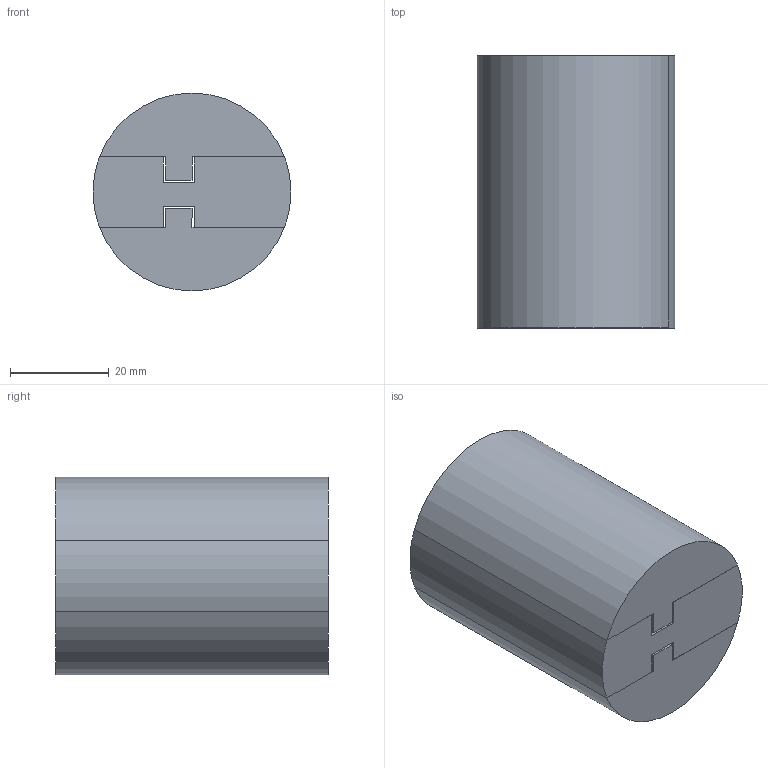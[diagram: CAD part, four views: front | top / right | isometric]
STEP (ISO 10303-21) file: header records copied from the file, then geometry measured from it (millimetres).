
FILE_DESCRIPTION(/* description */ (''),/* implementation_level */ '2;1');
FILE_NAME(/* name */ 'Z:\Projektname\Bauteile\Muster_Forum\Bauteil_Ohne_Scharnier.step',/* time_stamp */ '2025-02-17T07:15:46+01:00',/* author */ ('MVM1'),/* organization */ (''),/* preprocessor_version */ 'ST-DEVELOPER v19',/* originating_system */ 'Autodesk Inventor 2023',/* authorisation */ '');
FILE_SCHEMA (('AUTOMOTIVE_DESIGN { 1 0 10303 214 3 1 1 }'));
Length unit declared in the file: millimetre
Products named in the file (4): Bauteil_Ohne_Scharnier; Klemplate_1; Klemplatte_2; Mittelteil
Assembly tree (3 placements, depth 2):
  Bauteil_Ohne_Scharnier
    Klemplate_1
    Klemplatte_2
    Mittelteil
Bounding box: 39.89 x 55 x 40 mm (x, y, z)
Volume: 68310.8 mm3; surface area: 19617.4 mm2
Topology: 3 solids, 3 shells, 30 faces, 72 edges, 48 vertices
Faces by surface type: plane 26, cylinder 4
Entity records: 1034 total; most frequent: CARTESIAN_POINT 157, DIRECTION 154, ORIENTED_EDGE 144, EDGE_CURVE 72, LINE 64, VECTOR 64, VERTEX_POINT 48, AXIS2_PLACEMENT_3D 45
